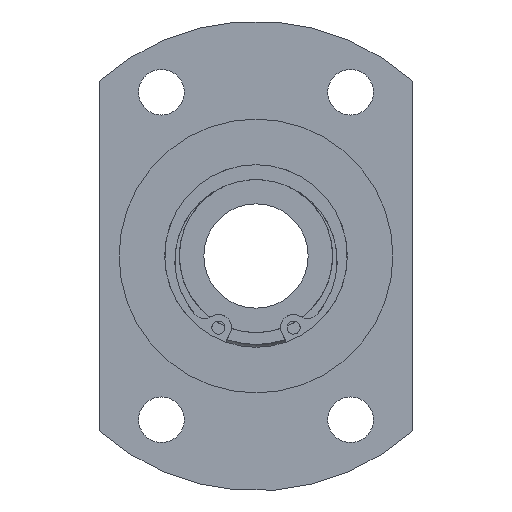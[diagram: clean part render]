
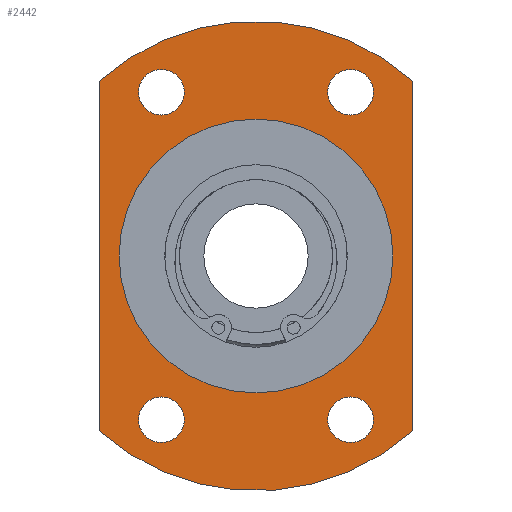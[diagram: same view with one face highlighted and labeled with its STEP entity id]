
A CAD part, left-side view. The second image highlights one B-rep face of the part: STEP entity #2442.
In plain terms, the highlighted planar face has unit normal (-1, 0, 0).
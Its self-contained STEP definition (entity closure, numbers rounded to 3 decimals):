
#2202=CARTESIAN_POINT('',(9.0,18.,-25.115));
#2203=VERTEX_POINT('',#2202);
#2204=CARTESIAN_POINT('',(9.,14.5,-25.115));
#2205=DIRECTION('',(1.0,0.0,0.0));
#2206=DIRECTION('',(0.0,1.0,0.0));
#2207=AXIS2_PLACEMENT_3D('',#2204,#2205,#2206);
#2208=CIRCLE('',#2207,3.5);
#2209=EDGE_CURVE('',#2203,#2203,#2208,.T.);
#2230=CARTESIAN_POINT('',(9.0,-11.,25.115));
#2231=VERTEX_POINT('',#2230);
#2232=CARTESIAN_POINT('',(9.,-14.5,25.115));
#2233=DIRECTION('',(1.0,0.0,0.0));
#2234=DIRECTION('',(0.0,1.0,0.0));
#2235=AXIS2_PLACEMENT_3D('',#2232,#2233,#2234);
#2236=CIRCLE('',#2235,3.5);
#2237=EDGE_CURVE('',#2231,#2231,#2236,.T.);
#2258=CARTESIAN_POINT('',(9.0,18.,25.115));
#2259=VERTEX_POINT('',#2258);
#2260=CARTESIAN_POINT('',(9.,14.5,25.115));
#2261=DIRECTION('',(1.0,0.0,0.0));
#2262=DIRECTION('',(0.0,1.0,0.0));
#2263=AXIS2_PLACEMENT_3D('',#2260,#2261,#2262);
#2264=CIRCLE('',#2263,3.5);
#2265=EDGE_CURVE('',#2259,#2259,#2264,.T.);
#2286=CARTESIAN_POINT('',(9.0,-11.,-25.115));
#2287=VERTEX_POINT('',#2286);
#2288=CARTESIAN_POINT('',(9.,-14.5,-25.115));
#2289=DIRECTION('',(1.0,0.0,0.0));
#2290=DIRECTION('',(0.0,1.0,0.0));
#2291=AXIS2_PLACEMENT_3D('',#2288,#2289,#2290);
#2292=CIRCLE('',#2291,3.5);
#2293=EDGE_CURVE('',#2287,#2287,#2292,.T.);
#2313=CARTESIAN_POINT('',(9.0,24.,-26.833));
#2314=VERTEX_POINT('',#2313);
#2321=CARTESIAN_POINT('',(9.0,24.0,26.833));
#2322=VERTEX_POINT('',#2321);
#2323=CARTESIAN_POINT('',(9.0,24.0,26.833));
#2324=DIRECTION('',(0.0,0.0,-1.0));
#2325=VECTOR('',#2324,53.666);
#2326=LINE('',#2323,#2325);
#2327=EDGE_CURVE('',#2322,#2314,#2326,.T.);
#2353=CARTESIAN_POINT('',(9.0,-24.,26.833));
#2354=VERTEX_POINT('',#2353);
#2361=CARTESIAN_POINT('',(9.0,-24.,-26.833));
#2362=VERTEX_POINT('',#2361);
#2363=CARTESIAN_POINT('',(9.0,-24.,-26.833));
#2364=DIRECTION('',(0.0,0.0,1.0));
#2365=VECTOR('',#2364,53.666);
#2366=LINE('',#2363,#2365);
#2367=EDGE_CURVE('',#2362,#2354,#2366,.T.);
#2392=CARTESIAN_POINT('',(9.,0.0,0.0));
#2393=DIRECTION('',(-1.0,0.0,0.0));
#2394=DIRECTION('',(0.0,0.0,1.0));
#2395=AXIS2_PLACEMENT_3D('',#2392,#2393,#2394);
#2396=CIRCLE('',#2395,36.0);
#2397=EDGE_CURVE('',#2314,#2362,#2396,.T.);
#2402=CARTESIAN_POINT('',(9.,0.0,28.5));
#2403=DIRECTION('',(-1.0,0.0,0.0));
#2404=DIRECTION('',(0.0,0.0,1.0));
#2405=AXIS2_PLACEMENT_3D('',#2402,#2403,#2404);
#2406=PLANE('',#2405);
#2407=ORIENTED_EDGE('',*,*,#2327,.T.);
#2408=ORIENTED_EDGE('',*,*,#2397,.T.);
#2409=ORIENTED_EDGE('',*,*,#2367,.T.);
#2410=CARTESIAN_POINT('',(9.,0.0,0.0));
#2411=DIRECTION('',(-1.0,0.0,0.0));
#2412=DIRECTION('',(0.0,0.0,1.0));
#2413=AXIS2_PLACEMENT_3D('',#2410,#2411,#2412);
#2414=CIRCLE('',#2413,36.0);
#2415=EDGE_CURVE('',#2354,#2322,#2414,.T.);
#2416=ORIENTED_EDGE('',*,*,#2415,.T.);
#2417=EDGE_LOOP('',(#2407,#2408,#2409,#2416));
#2418=FACE_OUTER_BOUND('',#2417,.T.);
#2419=ORIENTED_EDGE('',*,*,#2209,.T.);
#2420=EDGE_LOOP('',(#2419));
#2421=FACE_BOUND('',#2420,.T.);
#2422=ORIENTED_EDGE('',*,*,#2237,.T.);
#2423=EDGE_LOOP('',(#2422));
#2424=FACE_BOUND('',#2423,.T.);
#2425=ORIENTED_EDGE('',*,*,#2265,.T.);
#2426=EDGE_LOOP('',(#2425));
#2427=FACE_BOUND('',#2426,.T.);
#2428=ORIENTED_EDGE('',*,*,#2293,.T.);
#2429=EDGE_LOOP('',(#2428));
#2430=FACE_BOUND('',#2429,.T.);
#2431=CARTESIAN_POINT('',(9.0,0.0,21.));
#2432=VERTEX_POINT('',#2431);
#2433=CARTESIAN_POINT('',(9.0,0.0,0.0));
#2434=DIRECTION('',(-1.0,0.0,0.0));
#2435=DIRECTION('',(0.0,0.0,1.0));
#2436=AXIS2_PLACEMENT_3D('',#2433,#2434,#2435);
#2437=CIRCLE('',#2436,21.);
#2438=EDGE_CURVE('',#2432,#2432,#2437,.T.);
#2439=ORIENTED_EDGE('',*,*,#2438,.F.);
#2440=EDGE_LOOP('',(#2439));
#2441=FACE_BOUND('',#2440,.T.);
#2442=ADVANCED_FACE('',(#2418,#2421,#2424,#2427,#2430,#2441),#2406,.T.);
